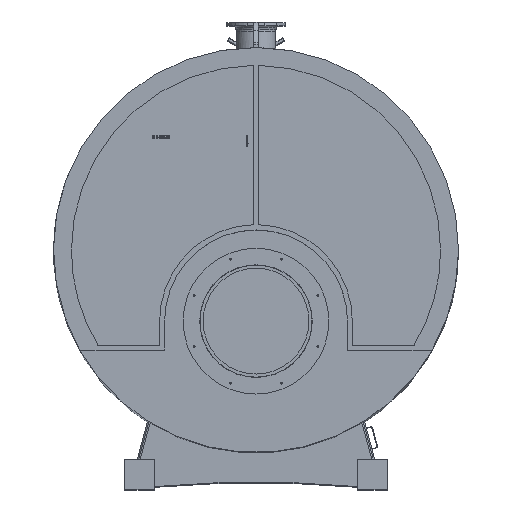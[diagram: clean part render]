
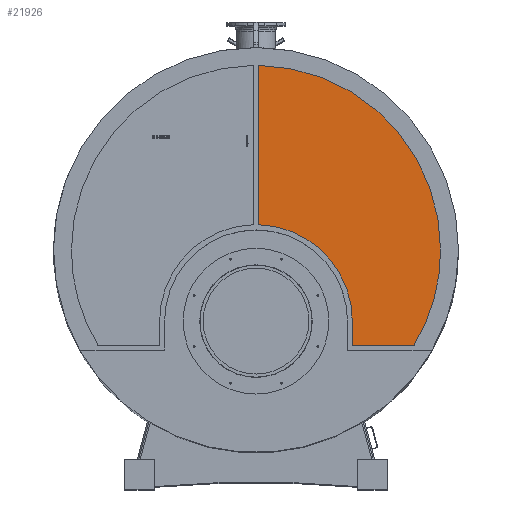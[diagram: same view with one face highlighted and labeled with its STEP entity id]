
A CAD part, top view. The second image highlights one B-rep face of the part: STEP entity #21926.
In plain terms, the highlighted planar face has unit normal (0, 0, 1).
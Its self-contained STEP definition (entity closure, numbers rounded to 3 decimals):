
#21733=CARTESIAN_POINT('',(15.,179.169,333.));
#21734=VERTEX_POINT('',#21733);
#21741=CARTESIAN_POINT('',(15.,1260.325,333.));
#21742=VERTEX_POINT('',#21741);
#21743=CARTESIAN_POINT('',(15.,1260.325,333.));
#21744=DIRECTION('',(-0.,-1.,0.));
#21745=VECTOR('',#21744,1081.156);
#21746=LINE('',#21743,#21745);
#21747=EDGE_CURVE('',#21742,#21734,#21746,.T.);
#21763=CARTESIAN_POINT('',(20.811,173.172,333.));
#21764=VERTEX_POINT('',#21763);
#21765=CARTESIAN_POINT('',(661.,-487.5,333.));
#21766=VERTEX_POINT('',#21765);
#21767=CARTESIAN_POINT('',(0.,-487.5,333.));
#21768=DIRECTION('',(0.,0.,-1.));
#21769=DIRECTION('',(1.,0.,0.));
#21770=AXIS2_PLACEMENT_3D('',#21767,#21768,#21769);
#21771=CIRCLE('',#21770,661.);
#21772=EDGE_CURVE('',#21764,#21766,#21771,.T.);
#21796=CARTESIAN_POINT('',(661.,-648.,333.));
#21797=VERTEX_POINT('',#21796);
#21804=CARTESIAN_POINT('',(661.,-487.5,333.));
#21805=DIRECTION('',(0.,-1.,0.));
#21806=VECTOR('',#21805,160.5);
#21807=LINE('',#21804,#21806);
#21808=EDGE_CURVE('',#21766,#21797,#21807,.T.);
#21820=CARTESIAN_POINT('',(1081.183,-654.,333.));
#21821=VERTEX_POINT('',#21820);
#21828=CARTESIAN_POINT('',(667.,-654.,333.));
#21829=VERTEX_POINT('',#21828);
#21830=CARTESIAN_POINT('',(667.,-654.,333.));
#21831=DIRECTION('',(1.,0.,-0.));
#21832=VECTOR('',#21831,414.183);
#21833=LINE('',#21830,#21832);
#21834=EDGE_CURVE('',#21829,#21821,#21833,.T.);
#21850=CARTESIAN_POINT('',(1266.5,-0.,333.));
#21851=VERTEX_POINT('',#21850);
#21859=CARTESIAN_POINT('',(21.1,1266.324,333.));
#21860=VERTEX_POINT('',#21859);
#21867=CARTESIAN_POINT('',(0.,0.,333.));
#21868=DIRECTION('',(0.,0.,1.));
#21869=DIRECTION('',(1.,0.,-0.));
#21870=AXIS2_PLACEMENT_3D('',#21867,#21868,#21869);
#21871=CIRCLE('',#21870,1266.5);
#21872=EDGE_CURVE('',#21851,#21860,#21871,.T.);
#21877=CARTESIAN_POINT('',(0.,-487.5,333.));
#21878=DIRECTION('',(0.,0.,-1.));
#21879=DIRECTION('',(-1.,0.,0.));
#21880=AXIS2_PLACEMENT_3D('',#21877,#21878,#21879);
#21881=PLANE('',#21880);
#21882=ORIENTED_EDGE('',*,*,#21834,.T.);
#21883=CARTESIAN_POINT('',(1086.329,-651.084,333.));
#21884=VERTEX_POINT('',#21883);
#21885=CARTESIAN_POINT('',(1081.183,-648.,333.));
#21886=DIRECTION('',(-0.,-0.,1.));
#21887=DIRECTION('',(-1.,0.,0.));
#21888=AXIS2_PLACEMENT_3D('',#21885,#21886,#21887);
#21889=CIRCLE('',#21888,6.);
#21890=EDGE_CURVE('',#21821,#21884,#21889,.T.);
#21891=ORIENTED_EDGE('',*,*,#21890,.T.);
#21892=CARTESIAN_POINT('',(0.,0.,333.));
#21893=DIRECTION('',(0.,0.,1.));
#21894=DIRECTION('',(1.,0.,-0.));
#21895=AXIS2_PLACEMENT_3D('',#21892,#21893,#21894);
#21896=CIRCLE('',#21895,1266.5);
#21897=EDGE_CURVE('',#21884,#21851,#21896,.T.);
#21898=ORIENTED_EDGE('',*,*,#21897,.T.);
#21899=ORIENTED_EDGE('',*,*,#21872,.T.);
#21900=CARTESIAN_POINT('',(21.,1260.325,333.));
#21901=DIRECTION('',(-0.,-0.,1.));
#21902=DIRECTION('',(-1.,0.,0.));
#21903=AXIS2_PLACEMENT_3D('',#21900,#21901,#21902);
#21904=CIRCLE('',#21903,6.);
#21905=EDGE_CURVE('',#21860,#21742,#21904,.T.);
#21906=ORIENTED_EDGE('',*,*,#21905,.T.);
#21907=ORIENTED_EDGE('',*,*,#21747,.T.);
#21908=CARTESIAN_POINT('',(21.,179.169,333.));
#21909=DIRECTION('',(-0.,-0.,1.));
#21910=DIRECTION('',(-1.,0.,0.));
#21911=AXIS2_PLACEMENT_3D('',#21908,#21909,#21910);
#21912=CIRCLE('',#21911,6.);
#21913=EDGE_CURVE('',#21734,#21764,#21912,.T.);
#21914=ORIENTED_EDGE('',*,*,#21913,.T.);
#21915=ORIENTED_EDGE('',*,*,#21772,.T.);
#21916=ORIENTED_EDGE('',*,*,#21808,.T.);
#21917=CARTESIAN_POINT('',(667.,-648.,333.));
#21918=DIRECTION('',(-0.,-0.,1.));
#21919=DIRECTION('',(-1.,0.,0.));
#21920=AXIS2_PLACEMENT_3D('',#21917,#21918,#21919);
#21921=CIRCLE('',#21920,6.);
#21922=EDGE_CURVE('',#21797,#21829,#21921,.T.);
#21923=ORIENTED_EDGE('',*,*,#21922,.T.);
#21924=EDGE_LOOP('',(#21882,#21891,#21898,#21899,#21906,#21907,#21914,#21915,#21916,#21923));
#21925=FACE_BOUND('',#21924,.T.);
#21926=ADVANCED_FACE('',(#21925),#21881,.F.);
